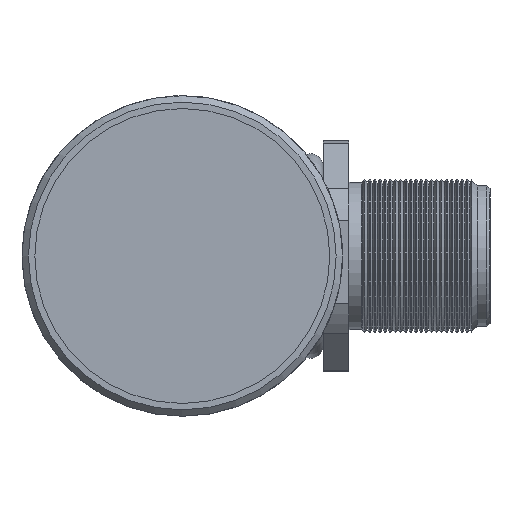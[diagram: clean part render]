
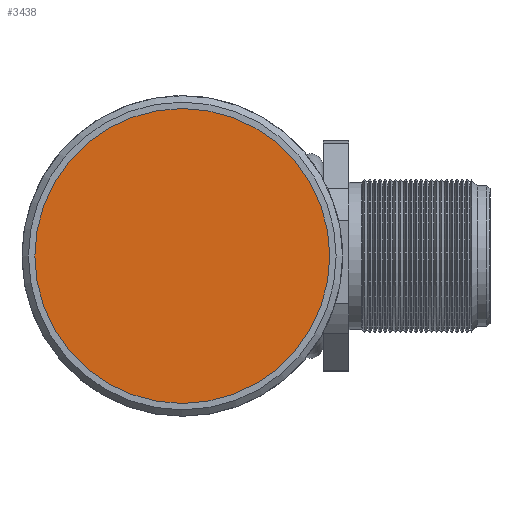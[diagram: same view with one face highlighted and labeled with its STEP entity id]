
A CAD part, left-side view. The second image highlights one B-rep face of the part: STEP entity #3438.
In plain terms, the highlighted planar face has unit normal (-1, 0, 0).
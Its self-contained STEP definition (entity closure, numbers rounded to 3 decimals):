
#430=PLANE('',#3709);
#834=VERTEX_POINT('',#4080);
#1145=CIRCLE('',#3708,11.5);
#1311=EDGE_CURVE('',#834,#834,#1145,.T.);
#1779=ORIENTED_EDGE('',*,*,#1311,.T.);
#2700=EDGE_LOOP('',(#1779));
#3073=FACE_BOUND('',#2700,.T.);
#3438=ADVANCED_FACE('',(#3073),#430,.F.);
#3708=AXIS2_PLACEMENT_3D('',#4079,#5718,#5719);
#3709=AXIS2_PLACEMENT_3D('',#4081,#5720,$);
#4079=CARTESIAN_POINT('',(-34.,0.,0.));
#4080=CARTESIAN_POINT('',(-34.,0.,-11.5));
#4081=CARTESIAN_POINT('',(-34.,0.,0.));
#5718=DIRECTION('',(-1.,0.,0.));
#5719=DIRECTION('',(0.,0.,-11.5));
#5720=DIRECTION('',(1.,0.,0.));
